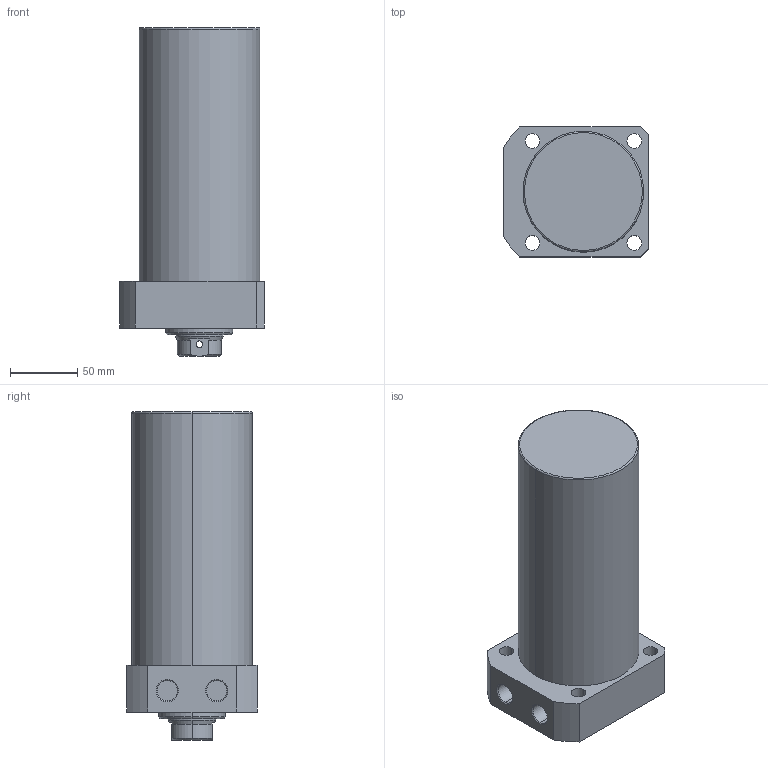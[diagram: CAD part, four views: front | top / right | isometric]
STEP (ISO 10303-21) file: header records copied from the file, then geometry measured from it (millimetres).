
FILE_DESCRIPTION (( 'STEP AP203' ), '1' );
FILE_NAME ('CLLR-090CB-145.STEP', '2019-12-18T06:21:02', ( '' ), ( '' ), 'SwSTEP 2.0', 'SolidWorks 2015', '' );
FILE_SCHEMA (( 'CONFIG_CONTROL_DESIGN' ));
Length unit declared in the file: millimetre
Products named in the file (1): CLLR-090CB-145
Bounding box: 108 x 97 x 245 mm (x, y, z)
Volume: 1551022.5 mm3; surface area: 98649 mm2
Topology: 1 solids, 1 shells, 69 faces, 163 edges, 102 vertices
Faces by surface type: cylinder 33, plane 19, cone 15, torus 2
Entity records: 2229 total; most frequent: CARTESIAN_POINT 497, DIRECTION 370, ORIENTED_EDGE 322, EDGE_CURVE 161, AXIS2_PLACEMENT_3D 151, VERTEX_POINT 102, EDGE_LOOP 89, CIRCLE 81
